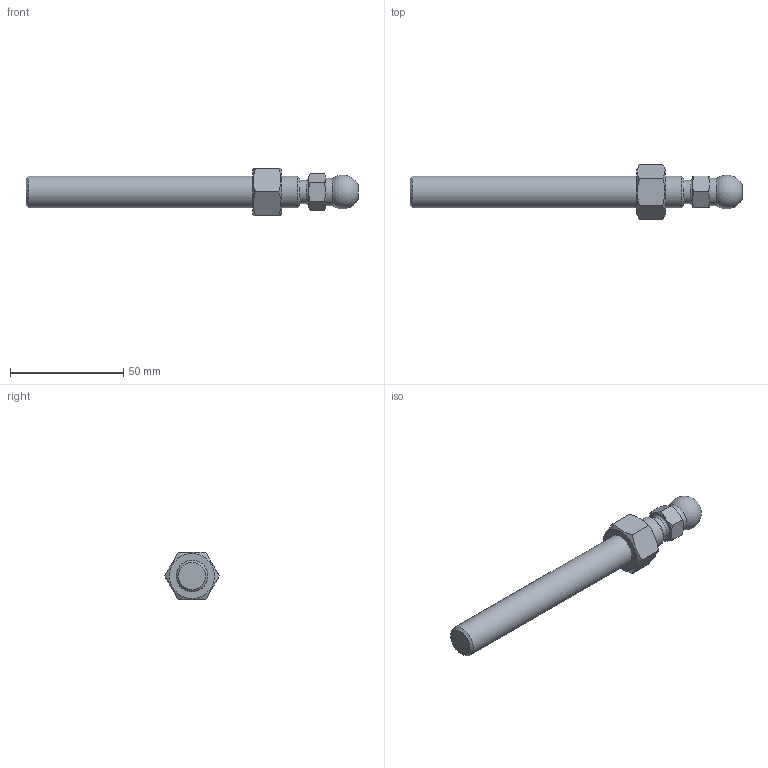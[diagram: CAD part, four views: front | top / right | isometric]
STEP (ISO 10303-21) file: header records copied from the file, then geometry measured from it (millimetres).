
FILE_DESCRIPTION(('STEP AP203'), '1');
FILE_NAME('A00020.114125', '', ('UNSPECIFIED'), ('UNSPECIFIED'), 'C3D Converter', 'C3D Toolkit', '');
FILE_SCHEMA(('CONFIG_CONTROL_DESIGN'));
Length unit declared in the file: millimetre
Products named in the file (2): A00020.114125
Assembly tree (1 placements, depth 2):
  A00020.114125
    (unnamed)
Bounding box: 146.8 x 24.25 x 21 mm (x, y, z)
Volume: 25479.4 mm3; surface area: 8615.6 mm2
Topology: 2 solids, 2 shells, 43 faces, 88 edges, 52 vertices
Faces by surface type: plane 19, cone 18, cylinder 4, torus 1, sphere 1
Full cylindrical faces by diameter (mm): 10.2 x1, 11.835 x1, 12 x1, 14 x1
Entity records: 2211 total; most frequent: CARTESIAN_POINT 1309, DIRECTION 158, ORIENTED_EDGE 152, EDGE_CURVE 76, AXIS2_PLACEMENT_3D 73, EDGE_LOOP 60, VERTEX_POINT 52, ADVANCED_FACE 43
